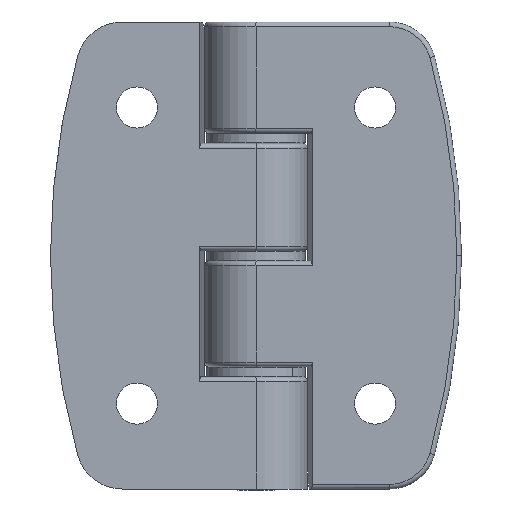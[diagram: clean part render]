
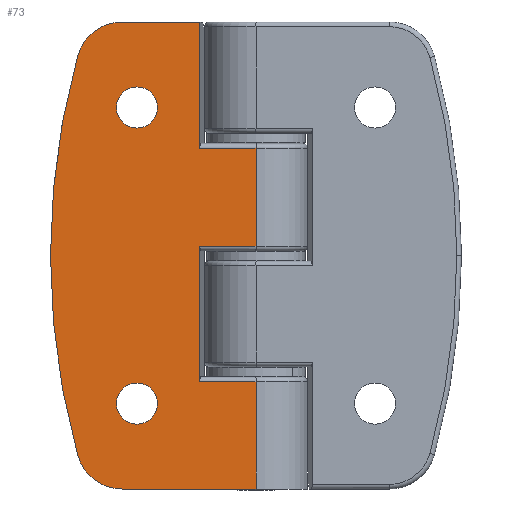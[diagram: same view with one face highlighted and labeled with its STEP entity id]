
A CAD part, front view. The second image highlights one B-rep face of the part: STEP entity #73.
In plain terms, the highlighted planar face has unit normal (0, -1, 0).
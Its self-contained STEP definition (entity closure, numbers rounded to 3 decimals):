
#73 = ADVANCED_FACE ( 'NONE', ( #2129, #2133, #2119 ), #2752, .T. ) ;
#262 = EDGE_CURVE ( 'NONE', #7066, #386, #3563, .T. ) ;
#284 = EDGE_CURVE ( 'NONE', #363, #342, #3606, .T. ) ;
#289 = EDGE_CURVE ( 'NONE', #7032, #380, #3614, .T. ) ;
#310 = EDGE_CURVE ( 'NONE', #7055, #7052, #3643, .T. ) ;
#311 = EDGE_CURVE ( 'NONE', #7007, #7023, #3640, .T. ) ;
#313 = EDGE_CURVE ( 'NONE', #382, #350, #3649, .T. ) ;
#314 = EDGE_CURVE ( 'NONE', #386, #7066, #3645, .T. ) ;
#315 = EDGE_CURVE ( 'NONE', #7007, #6911, #3651, .T. ) ;
#316 = EDGE_CURVE ( 'NONE', #6911, #7032, #3652, .T. ) ;
#317 = EDGE_CURVE ( 'NONE', #380, #363, #3654, .T. ) ;
#318 = EDGE_CURVE ( 'NONE', #342, #7037, #3656, .T. ) ;
#319 = EDGE_CURVE ( 'NONE', #7037, #7054, #3657, .T. ) ;
#320 = EDGE_CURVE ( 'NONE', #7055, #384, #3658, .T. ) ;
#321 = EDGE_CURVE ( 'NONE', #384, #7074, #3659, .T. ) ;
#322 = EDGE_CURVE ( 'NONE', #7074, #7023, #3661, .T. ) ;
#342 = VERTEX_POINT ( 'NONE', #4279 ) ;
#350 = VERTEX_POINT ( 'NONE', #4287 ) ;
#363 = VERTEX_POINT ( 'NONE', #4300 ) ;
#380 = VERTEX_POINT ( 'NONE', #4318 ) ;
#382 = VERTEX_POINT ( 'NONE', #4336 ) ;
#384 = VERTEX_POINT ( 'NONE', #4337 ) ;
#386 = VERTEX_POINT ( 'NONE', #4334 ) ;
#574 = EDGE_LOOP ( 'NONE', ( #800, #801 ) ) ;
#581 = EDGE_LOOP ( 'NONE', ( #798, #799 ) ) ;
#648 = EDGE_LOOP ( 'NONE', ( #802, #803, #804, #805, #806, #807, #808, #809, #810, #811, #812, #813, #814 ) ) ;
#798 = ORIENTED_EDGE ( 'NONE', *, *, #313, .T. ) ;
#799 = ORIENTED_EDGE ( 'NONE', *, *, #7216, .T. ) ;
#800 = ORIENTED_EDGE ( 'NONE', *, *, #314, .T. ) ;
#801 = ORIENTED_EDGE ( 'NONE', *, *, #262, .T. ) ;
#802 = ORIENTED_EDGE ( 'NONE', *, *, #311, .F. ) ;
#803 = ORIENTED_EDGE ( 'NONE', *, *, #315, .T. ) ;
#804 = ORIENTED_EDGE ( 'NONE', *, *, #316, .T. ) ;
#805 = ORIENTED_EDGE ( 'NONE', *, *, #289, .T. ) ;
#806 = ORIENTED_EDGE ( 'NONE', *, *, #317, .T. ) ;
#807 = ORIENTED_EDGE ( 'NONE', *, *, #284, .T. ) ;
#808 = ORIENTED_EDGE ( 'NONE', *, *, #318, .T. ) ;
#809 = ORIENTED_EDGE ( 'NONE', *, *, #319, .T. ) ;
#810 = ORIENTED_EDGE ( 'NONE', *, *, #7194, .F. ) ;
#811 = ORIENTED_EDGE ( 'NONE', *, *, #310, .F. ) ;
#812 = ORIENTED_EDGE ( 'NONE', *, *, #320, .T. ) ;
#813 = ORIENTED_EDGE ( 'NONE', *, *, #321, .T. ) ;
#814 = ORIENTED_EDGE ( 'NONE', *, *, #322, .T. ) ;
#2119 = FACE_OUTER_BOUND ( 'NONE', #648, .T. ) ;
#2129 = FACE_BOUND ( 'NONE', #581, .T. ) ;
#2133 = FACE_BOUND ( 'NONE', #574, .T. ) ;
#2587 = AXIS2_PLACEMENT_3D ( 'NONE', #2751, #2749, #2753 ) ;
#2749 = DIRECTION ( 'NONE',  ( 0., -1., 0. ) ) ;
#2751 = CARTESIAN_POINT ( 'NONE',  ( 5.5, 0., -50. ) ) ;
#2752 = PLANE ( 'NONE',  #2587 ) ;
#2753 = DIRECTION ( 'NONE',  ( 1., 0., 0. ) ) ;
#3327 = AXIS2_PLACEMENT_3D ( 'NONE', #4104, #4105, #4106 ) ;
#3343 = AXIS2_PLACEMENT_3D ( 'NONE', #4165, #4166, #4167 ) ;
#3351 = AXIS2_PLACEMENT_3D ( 'NONE', #4239, #4240, #4241 ) ;
#3352 = AXIS2_PLACEMENT_3D ( 'NONE', #4242, #4243, #4244 ) ;
#3353 = AXIS2_PLACEMENT_3D ( 'NONE', #4247, #4248, #4249 ) ;
#3354 = AXIS2_PLACEMENT_3D ( 'NONE', #4252, #4253, #4254 ) ;
#3355 = AXIS2_PLACEMENT_3D ( 'NONE', #4257, #4258, #4259 ) ;
#3563 = CIRCLE ( 'NONE', #3327, 2.2 ) ;
#3606 = CIRCLE ( 'NONE', #3343, 80. ) ;
#3614 = LINE ( 'NONE', #4176, #3617 ) ;
#3617 = VECTOR ( 'NONE', #4177, 1000. ) ;
#3640 = LINE ( 'NONE', #4222, #3648 ) ;
#3643 = LINE ( 'NONE', #4232, #3646 ) ;
#3645 = CIRCLE ( 'NONE', #3352, 2.2 ) ;
#3646 = VECTOR ( 'NONE', #4233, 1000. ) ;
#3648 = VECTOR ( 'NONE', #4234, 1000. ) ;
#3649 = CIRCLE ( 'NONE', #3351, 2.2 ) ;
#3651 = LINE ( 'NONE', #4227, #3653 ) ;
#3652 = LINE ( 'NONE', #4245, #3655 ) ;
#3653 = VECTOR ( 'NONE', #4238, 1000. ) ;
#3654 = CIRCLE ( 'NONE', #3353, 5. ) ;
#3655 = VECTOR ( 'NONE', #4246, 1000. ) ;
#3656 = CIRCLE ( 'NONE', #3354, 80. ) ;
#3657 = CIRCLE ( 'NONE', #3355, 5. ) ;
#3658 = LINE ( 'NONE', #4250, #3660 ) ;
#3659 = LINE ( 'NONE', #4260, #3662 ) ;
#3660 = VECTOR ( 'NONE', #4251, 1000. ) ;
#3661 = LINE ( 'NONE', #4262, #3664 ) ;
#3662 = VECTOR ( 'NONE', #4261, 1000. ) ;
#3664 = VECTOR ( 'NONE', #4263, 1000. ) ;
#4104 = CARTESIAN_POINT ( 'NONE',  ( 18.25, 0., -40.85 ) ) ;
#4105 = DIRECTION ( 'NONE',  ( 0., 1., 0. ) ) ;
#4106 = DIRECTION ( 'NONE',  ( 0., 0., 1. ) ) ;
#4165 = CARTESIAN_POINT ( 'NONE',  ( -52.5, 0., -25. ) ) ;
#4166 = DIRECTION ( 'NONE',  ( 0., -1., 0. ) ) ;
#4167 = DIRECTION ( 'NONE',  ( 1., 0., 0. ) ) ;
#4176 = CARTESIAN_POINT ( 'NONE',  ( 5.5, 0., -50. ) ) ;
#4177 = DIRECTION ( 'NONE',  ( 1., 0., 0. ) ) ;
#4222 = CARTESIAN_POINT ( 'NONE',  ( 5.5, 0., -50. ) ) ;
#4227 = CARTESIAN_POINT ( 'NONE',  ( 5.5, 0., -36.5 ) ) ;
#4232 = CARTESIAN_POINT ( 'NONE',  ( 5.5, 0., -50. ) ) ;
#4233 = DIRECTION ( 'NONE',  ( 0., 0., 1. ) ) ;
#4234 = DIRECTION ( 'NONE',  ( 0., 0., 1. ) ) ;
#4238 = DIRECTION ( 'NONE',  ( 1., 0., 0. ) ) ;
#4239 = CARTESIAN_POINT ( 'NONE',  ( 18.25, 0., -9.15 ) ) ;
#4240 = DIRECTION ( 'NONE',  ( 0., 1., 0. ) ) ;
#4241 = DIRECTION ( 'NONE',  ( 0., 0., 1. ) ) ;
#4242 = CARTESIAN_POINT ( 'NONE',  ( 18.25, 0., -40.85 ) ) ;
#4243 = DIRECTION ( 'NONE',  ( 0., 1., 0. ) ) ;
#4244 = DIRECTION ( 'NONE',  ( 0., 0., 1. ) ) ;
#4245 = CARTESIAN_POINT ( 'NONE',  ( 11.5, 0., -37. ) ) ;
#4246 = DIRECTION ( 'NONE',  ( 0., 0., -1. ) ) ;
#4247 = CARTESIAN_POINT ( 'NONE',  ( 19.784, 0., -45. ) ) ;
#4248 = DIRECTION ( 'NONE',  ( 0., -1., 0. ) ) ;
#4249 = DIRECTION ( 'NONE',  ( 1., 0., 0. ) ) ;
#4250 = CARTESIAN_POINT ( 'NONE',  ( 5.5, 0., -11.5 ) ) ;
#4251 = DIRECTION ( 'NONE',  ( 1., 0., 0. ) ) ;
#4252 = CARTESIAN_POINT ( 'NONE',  ( -52.5, 0., -25. ) ) ;
#4253 = DIRECTION ( 'NONE',  ( 0., -1., 0. ) ) ;
#4254 = DIRECTION ( 'NONE',  ( 1., 0., 0. ) ) ;
#4257 = CARTESIAN_POINT ( 'NONE',  ( 19.784, 0., -5. ) ) ;
#4258 = DIRECTION ( 'NONE',  ( 0., -1., 0. ) ) ;
#4259 = DIRECTION ( 'NONE',  ( 1., 0., 0. ) ) ;
#4260 = CARTESIAN_POINT ( 'NONE',  ( 11.5, 0., -12. ) ) ;
#4261 = DIRECTION ( 'NONE',  ( 0., 0., -1. ) ) ;
#4262 = CARTESIAN_POINT ( 'NONE',  ( 5.5, 0., -26. ) ) ;
#4263 = DIRECTION ( 'NONE',  ( -1., 0., 0. ) ) ;
#4279 = CARTESIAN_POINT ( 'NONE',  ( 27.5, 0., -25. ) ) ;
#4287 = CARTESIAN_POINT ( 'NONE',  ( 18.25, 0., -11.35 ) ) ;
#4300 = CARTESIAN_POINT ( 'NONE',  ( 24.603, 0., -46.333 ) ) ;
#4318 = CARTESIAN_POINT ( 'NONE',  ( 19.784, 0., -50. ) ) ;
#4334 = CARTESIAN_POINT ( 'NONE',  ( 18.25, 0., -38.65 ) ) ;
#4336 = CARTESIAN_POINT ( 'NONE',  ( 18.25, 0., -6.95 ) ) ;
#4337 = CARTESIAN_POINT ( 'NONE',  ( 11.5, 0., -11.5 ) ) ;
#5107 = AXIS2_PLACEMENT_3D ( 'NONE', #6722, #6723, #6724 ) ;
#5794 = LINE ( 'NONE', #6659, #5800 ) ;
#5800 = VECTOR ( 'NONE', #6657, 1000. ) ;
#5823 = CIRCLE ( 'NONE', #5107, 2.2 ) ;
#6552 = CARTESIAN_POINT ( 'NONE',  ( 11.5, 0., -36.5 ) ) ;
#6573 = CARTESIAN_POINT ( 'NONE',  ( 5.5, 0., -36.5 ) ) ;
#6589 = CARTESIAN_POINT ( 'NONE',  ( 5.5, 0., -26. ) ) ;
#6598 = CARTESIAN_POINT ( 'NONE',  ( 11.5, 0., -50. ) ) ;
#6603 = CARTESIAN_POINT ( 'NONE',  ( 24.603, 0., -3.667 ) ) ;
#6613 = CARTESIAN_POINT ( 'NONE',  ( 5.5, 0., 0. ) ) ;
#6615 = CARTESIAN_POINT ( 'NONE',  ( 19.784, 0., 0. ) ) ;
#6616 = CARTESIAN_POINT ( 'NONE',  ( 5.5, 0., -11.5 ) ) ;
#6627 = CARTESIAN_POINT ( 'NONE',  ( 18.25, 0., -43.05 ) ) ;
#6635 = CARTESIAN_POINT ( 'NONE',  ( 11.5, 0., -26. ) ) ;
#6657 = DIRECTION ( 'NONE',  ( 1., 0., 0. ) ) ;
#6659 = CARTESIAN_POINT ( 'NONE',  ( 5.5, 0., 0. ) ) ;
#6722 = CARTESIAN_POINT ( 'NONE',  ( 18.25, 0., -9.15 ) ) ;
#6723 = DIRECTION ( 'NONE',  ( 0., 1., 0. ) ) ;
#6724 = DIRECTION ( 'NONE',  ( 0., 0., 1. ) ) ;
#6911 = VERTEX_POINT ( 'NONE', #6552 ) ;
#7007 = VERTEX_POINT ( 'NONE', #6573 ) ;
#7023 = VERTEX_POINT ( 'NONE', #6589 ) ;
#7032 = VERTEX_POINT ( 'NONE', #6598 ) ;
#7037 = VERTEX_POINT ( 'NONE', #6603 ) ;
#7052 = VERTEX_POINT ( 'NONE', #6613 ) ;
#7054 = VERTEX_POINT ( 'NONE', #6615 ) ;
#7055 = VERTEX_POINT ( 'NONE', #6616 ) ;
#7066 = VERTEX_POINT ( 'NONE', #6627 ) ;
#7074 = VERTEX_POINT ( 'NONE', #6635 ) ;
#7194 = EDGE_CURVE ( 'NONE', #7052, #7054, #5794, .T. ) ;
#7216 = EDGE_CURVE ( 'NONE', #350, #382, #5823, .T. ) ;
